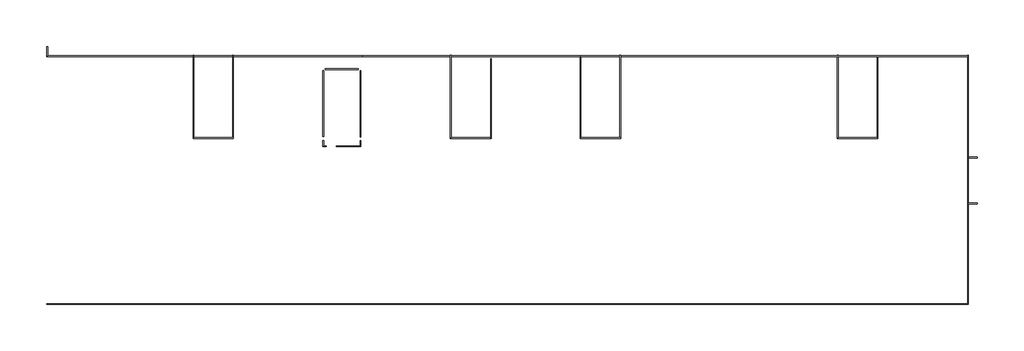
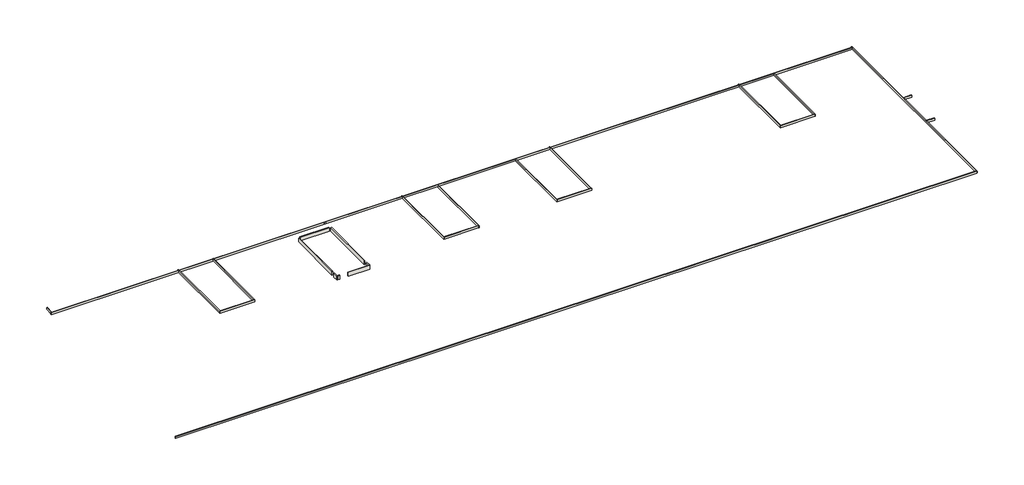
# One storey: 26 walls.
"""IFC4 building model written with IfcOpenShell, lengths in millimetres."""

from ifc_helpers import new_model, si_unit, frame, origin, place, context, project, spatial, polyline, outline, extrude, faceted_brep, element, save

model = new_model("IFC4")

# Units and contexts
model_context = context("Model", 3, world=origin())
ifc_project = project(units=[si_unit("LENGTHUNIT", "METRE", prefix="MILLI")], contexts=[model_context])

# Site, building, storey
site = spatial("IfcSite", under=ifc_project)
building = spatial("IfcBuilding", under=site)
storey = spatial("IfcBuildingStorey", under=building, Name="Cobertura-IMPERMEABILIZAÇÃO", Elevation=59740.0)

# Walls
placement = place(None, origin())
element("IfcWall", 1, ObjectType="Áreas frias", at=placement, inside=storey, context=model_context, shape_type="SweptSolid", body=[
    extrude(outline(polyline([(-33577.046705, 22672.9418231), (-33577.046705, 28530.439065), (-33512.046705, 28530.439065), (-33512.046705, 22672.9418231), (-33577.046705, 22672.9418231)])), frame((0.0, 0.0, 59740.0), z_axis=(0.0, 0.0, 1.0), x_axis=(1.0, 0.0, 0.0)), (0.0, 0.0, 1.0), 400.0),
])
element("IfcWall", 2, ObjectType="Áreas frias", at=placement, inside=storey, context=model_context, shape_type="Brep", body=[
    faceted_brep([(-33577.046705, 22319.9418231, 59740.0), (-33577.046705, 21791.8823991, 59740.0), (-33577.046705, 21791.8823991, 60140.0), (-33577.046705, 22319.9418231, 60140.0), (-33512.046705, 22319.9418231, 59740.0), (-33512.046705, 22319.9418231, 60140.0), (-33512.046705, 21856.8823991, 60140.0), (-33512.046705, 21791.8823991, 60140.0), (-33512.046705, 21791.8823991, 59740.0), (-33512.046705, 21856.8823991, 59740.0)], [[[0, 1, 2, 3]], [[4, 5, 6, 7, 8, 9]], [[1, 0, 4, 9, 8]], [[3, 2, 7, 6, 5]], [[0, 3, 5, 4]], [[2, 1, 8, 7]]]),
])
element("IfcWall", 3, ObjectType="Áreas frias", at=placement, inside=storey, context=model_context, shape_type="SweptSolid", body=[
    extrude(outline(polyline([(-33282.049875, 21791.8823991), (-33512.046705, 21791.8823991), (-33512.046705, 21856.8823991), (-33282.049875, 21856.8823991), (-33282.049875, 21791.8823991)])), frame((0.0, 0.0, 59740.0), z_axis=(0.0, 0.0, 1.0), x_axis=(1.0, 0.0, 0.0)), (0.0, 0.0, 1.0), 400.0),
])
element("IfcWall", 4, ObjectType="Áreas frias", at=placement, inside=storey, context=model_context, shape_type="Brep", body=[
    faceted_brep([(-32412.049875, 21791.8823991, 59740.0), (-30219.549875, 21791.8823991, 59740.0), (-30219.549875, 21791.8823991, 60140.0), (-32412.049875, 21791.8823991, 60140.0), (-32412.049875, 21856.8823991, 59740.0), (-32412.049875, 21856.8823991, 60140.0), (-30284.549875, 21856.8823991, 60140.0), (-30219.549875, 21856.8823991, 60140.0), (-30219.549875, 21856.8823991, 59740.0), (-30284.549875, 21856.8823991, 59740.0)], [[[0, 1, 2, 3]], [[4, 5, 6, 7, 8, 9]], [[1, 0, 4, 9, 8]], [[3, 2, 7, 6, 5]], [[0, 3, 5, 4]], [[2, 1, 8, 7]]]),
])
element("IfcWall", 5, ObjectType="Áreas frias", at=placement, inside=storey, context=model_context, shape_type="SweptSolid", body=[
    extrude(outline(polyline([(-30219.549875, 22324.3823991), (-30219.549875, 21856.8823991), (-30284.549875, 21856.8823991), (-30284.549875, 22324.3823991), (-30219.549875, 22324.3823991)])), frame((0.0, 0.0, 59740.0), z_axis=(0.0, 0.0, 1.0), x_axis=(1.0, 0.0, 0.0)), (0.0, 0.0, 1.0), 400.0),
])
element("IfcWall", 6, ObjectType="Áreas frias", at=placement, inside=storey, context=model_context, shape_type="SweptSolid", body=[
    extrude(outline(polyline([(-30232.0467035, 28522.9418231), (-30232.0467035, 22642.9418231), (-30297.0467035, 22642.9418231), (-30297.0467035, 28522.9418231), (-30232.0467035, 28522.9418231)])), frame((0.0, 0.0, 59740.0), z_axis=(0.0, 0.0, 1.0), x_axis=(1.0, 0.0, 0.0)), (0.0, 0.0, 1.0), 400.0),
])
element("IfcWall", 7, ObjectType="Áreas frias", at=placement, inside=storey, context=model_context, shape_type="SweptSolid", body=[
    extrude(outline(polyline([(-33378.5467035, 28671.8823991), (-30438.5467035, 28671.8823991), (-30438.5467035, 28606.8823991), (-33378.5467035, 28606.8823991), (-33378.5467035, 28671.8823991)])), frame((0.0, 0.0, 59740.0), z_axis=(0.0, 0.0, 1.0), x_axis=(1.0, 0.0, 0.0)), (0.0, 0.0, 1.0), 400.0),
])
element("IfcWall", 8, ObjectType="Áreas frias", at=placement, inside=storey, context=model_context, shape_type="Brep", body=[
    faceted_brep([(-45007.049875, 22509.382395, 59740.0), (-45007.049875, 22574.382395, 59740.0), (-45007.049875, 29896.0421107, 59740.0), (-45007.049875, 29896.0421107, 59940.0), (-45007.049875, 22574.382395, 59940.0), (-45007.049875, 22509.382395, 59940.0), (-45072.049875, 22509.382395, 59740.0), (-45072.049875, 22509.382395, 59940.0), (-45072.049875, 29896.0421107, 59940.0), (-45072.049875, 29896.0421107, 59740.0)], [[[0, 1, 2, 3, 4, 5]], [[6, 7, 8, 9]], [[2, 1, 0, 6, 9]], [[3, 2, 9, 8]], [[5, 4, 3, 8, 7]], [[0, 5, 7, 6]]]),
])
element("IfcWall", 9, ObjectType="Áreas frias", at=placement, inside=storey, context=model_context, shape_type="Brep", body=[
    faceted_brep([(-41499.549875, 22574.382395, 59740.0), (-41564.549875, 22574.382395, 59740.0), (-45007.049875, 22574.382395, 59740.0), (-45007.049875, 22574.382395, 59940.0), (-41564.549875, 22574.382395, 59940.0), (-41499.549875, 22574.382395, 59940.0), (-41499.549875, 22509.382395, 59740.0), (-41499.549875, 22509.382395, 59940.0), (-45007.049875, 22509.382395, 59940.0), (-45007.049875, 22509.382395, 59740.0)], [[[0, 1, 2, 3, 4, 5]], [[6, 7, 8, 9]], [[2, 1, 0, 6, 9]], [[5, 4, 3, 8, 7]], [[3, 2, 9, 8]], [[0, 5, 7, 6]]]),
])
element("IfcWall", 10, ObjectType="Áreas frias", at=placement, inside=storey, context=model_context, shape_type="SweptSolid", body=[
    extrude(outline(polyline([(-41564.549875, 22574.382395), (-41564.549875, 29871.2226879), (-41499.549875, 29871.2226879), (-41499.549875, 22574.382395), (-41564.549875, 22574.382395)])), frame((0.0, 0.0, 59740.0), z_axis=(0.0, 0.0, 1.0), x_axis=(1.0, 0.0, 0.0)), (0.0, 0.0, 1.0), 200.0),
])
element("IfcWall", 11, ObjectType="Áreas frias", at=placement, inside=storey, context=model_context, shape_type="Brep", body=[
    faceted_brep([(-22239.549875, 22509.382395, 59740.0), (-22239.549875, 22574.382395, 59740.0), (-22239.549875, 29901.0421108, 59740.0), (-22239.549875, 29901.0421108, 59940.0), (-22239.549875, 22574.382395, 59940.0), (-22239.549875, 22509.382395, 59940.0), (-22304.549875, 22509.382395, 59740.0), (-22304.549875, 22509.382395, 59940.0), (-22304.549875, 29901.0421108, 59940.0), (-22304.549875, 29901.0421108, 59740.0)], [[[0, 1, 2, 3, 4, 5]], [[6, 7, 8, 9]], [[2, 1, 0, 6, 9]], [[3, 2, 9, 8]], [[5, 4, 3, 8, 7]], [[0, 5, 7, 6]]]),
])
element("IfcWall", 12, ObjectType="Áreas frias", at=placement, inside=storey, context=model_context, shape_type="SweptSolid", body=[
    extrude(outline(polyline([(-22239.549875, 22574.382395), (-18769.549875, 22574.382395), (-18769.549875, 22509.382395), (-22239.549875, 22509.382395), (-22239.549875, 22574.382395)])), frame((0.0, 0.0, 59740.0), z_axis=(0.0, 0.0, 1.0), x_axis=(1.0, 0.0, 0.0)), (0.0, 0.0, 1.0), 200.0),
])
element("IfcWall", 13, ObjectType="Áreas frias", at=placement, inside=storey, context=model_context, shape_type="SweptSolid", body=[
    extrude(outline(polyline([(-18687.049875, 29591.882395), (-18687.049875, 22491.882395), (-18752.049875, 22491.882395), (-18752.049875, 29591.882395), (-18687.049875, 29591.882395)])), frame((0.0, 0.0, 59740.0), z_axis=(0.0, 0.0, 1.0), x_axis=(1.0, 0.0, 0.0)), (0.0, 0.0, 1.0), 200.0),
])
element("IfcWall", 14, ObjectType="Áreas frias", at=placement, inside=storey, context=model_context, shape_type="Brep", body=[
    faceted_brep([(-10814.549875, 29769.3823991, 59740.0), (-10814.549875, 22509.382395, 59740.0), (-10814.549875, 22509.382395, 59940.0), (-10814.549875, 29769.3823991, 59940.0), (-10749.549875, 29769.3823991, 59740.0), (-10749.549875, 29769.3823991, 59940.0), (-10749.549875, 22574.382395, 59940.0), (-10749.549875, 22509.382395, 59940.0), (-10749.549875, 22509.382395, 59740.0), (-10749.549875, 22574.382395, 59740.0)], [[[0, 1, 2, 3]], [[4, 5, 6, 7, 8, 9]], [[1, 0, 4, 9, 8]], [[3, 2, 7, 6, 5]], [[2, 1, 8, 7]], [[0, 3, 5, 4]]]),
])
element("IfcWall", 15, ObjectType="Áreas frias", at=placement, inside=storey, context=model_context, shape_type="Brep", body=[
    faceted_brep([(-10749.549875, 22509.382395, 59740.0), (-7247.049875, 22509.382395, 59740.0), (-7247.049875, 22509.382395, 59940.0), (-10749.549875, 22509.382395, 59940.0), (-10749.549875, 22574.382395, 59740.0), (-10749.549875, 22574.382395, 59940.0), (-7312.049875, 22574.382395, 59940.0), (-7247.049875, 22574.382395, 59940.0), (-7247.049875, 22574.382395, 59740.0), (-7312.049875, 22574.382395, 59740.0)], [[[0, 1, 2, 3]], [[4, 5, 6, 7, 8, 9]], [[1, 0, 4, 9, 8]], [[3, 2, 7, 6, 5]], [[0, 3, 5, 4]], [[2, 1, 8, 7]]]),
])
element("IfcWall", 16, ObjectType="Áreas frias", at=placement, inside=storey, context=model_context, shape_type="SweptSolid", body=[
    extrude(outline(polyline([(-7247.049875, 29901.0421108), (-7247.049875, 22574.382395), (-7312.049875, 22574.382395), (-7312.049875, 29901.0421108), (-7247.049875, 29901.0421108)])), frame((0.0, 0.0, 59740.0), z_axis=(0.0, 0.0, 1.0), x_axis=(1.0, 0.0, 0.0)), (0.0, 0.0, 1.0), 200.0),
])
element("IfcWall", 17, ObjectType="Áreas frias", at=placement, inside=storey, context=model_context, shape_type="Brep", body=[
    faceted_brep([(11947.950125, 29895.7226879, 59740.0), (11947.950125, 22509.382395, 59740.0), (11947.950125, 22509.382395, 59940.0), (11947.950125, 29895.7226879, 59940.0), (12012.950125, 29895.7226879, 59740.0), (12012.950125, 29895.7226879, 59940.0), (12012.950125, 22574.382395, 59940.0), (12012.950125, 22509.382395, 59940.0), (12012.950125, 22509.382395, 59740.0), (12012.950125, 22574.382395, 59740.0)], [[[0, 1, 2, 3]], [[4, 5, 6, 7, 8, 9]], [[1, 0, 4, 9, 8]], [[3, 2, 7, 6, 5]], [[0, 3, 5, 4]], [[2, 1, 8, 7]]]),
])
element("IfcWall", 18, ObjectType="Áreas frias", at=placement, inside=storey, context=model_context, shape_type="Brep", body=[
    faceted_brep([(15520.450125, 22509.382395, 59740.0), (15520.450125, 29769.3823991, 59740.0), (15520.450125, 29769.3823991, 59940.0), (15520.450125, 22509.382395, 59940.0), (15455.450125, 22509.382395, 59740.0), (15455.450125, 22509.382395, 59940.0), (15455.450125, 22574.382395, 59940.0), (15455.450125, 29769.3823991, 59940.0), (15455.450125, 29769.3823991, 59740.0), (15455.450125, 22574.382395, 59740.0)], [[[0, 1, 2, 3]], [[4, 5, 6, 7, 8, 9]], [[1, 0, 4, 9, 8]], [[3, 2, 7, 6, 5]], [[0, 3, 5, 4]], [[2, 1, 8, 7]]]),
])
element("IfcWall", 19, ObjectType="Áreas frias", at=placement, inside=storey, context=model_context, shape_type="SweptSolid", body=[
    extrude(outline(polyline([(15455.450125, 22509.382395), (12012.950125, 22509.382395), (12012.950125, 22574.382395), (15455.450125, 22574.382395), (15455.450125, 22509.382395)])), frame((0.0, 0.0, 59740.0), z_axis=(0.0, 0.0, 1.0), x_axis=(1.0, 0.0, 0.0)), (0.0, 0.0, 1.0), 200.0),
])
element("IfcWall", 20, ObjectType="Áreas frias", at=placement, inside=storey, context=model_context, shape_type="Brep", body=[
    faceted_brep([(-30120.5467035, 29829.0629763, 59740.0), (-57929.549875, 29829.0629763, 59740.0), (-57994.549875, 29829.0629763, 59740.0), (-58034.549875, 29829.0629763, 59740.0), (-58034.549875, 29829.0629763, 59940.0), (-57994.549875, 29829.0629763, 59940.0), (-57929.549875, 29829.0629763, 59940.0), (-30120.5467035, 29829.0629763, 59940.0), (-30120.5467035, 29764.0629763, 59740.0), (-30120.5467035, 29764.0629763, 59940.0), (-58034.549875, 29764.0629763, 59940.0), (-58034.549875, 29764.0629763, 59740.0)], [[[0, 1, 2, 3, 4, 5, 6, 7]], [[8, 9, 10, 11]], [[3, 2, 1, 0, 8, 11]], [[4, 3, 11, 10]], [[7, 6, 5, 4, 10, 9]], [[0, 7, 9, 8]]]),
])
element("IfcWall", 21, ObjectType="Áreas frias", at=placement, inside=storey, context=model_context, shape_type="SweptSolid", body=[
    extrude(outline(polyline([(-57929.549875, 30656.8823997), (-57929.549875, 29829.0629763), (-57994.549875, 29829.0629763), (-57994.549875, 30656.8823997), (-57929.549875, 30656.8823997)])), frame((0.0, 0.0, 59740.0), z_axis=(0.0, 0.0, 1.0), x_axis=(1.0, 0.0, 0.0)), (0.0, 0.0, 1.0), 200.0),
])
element("IfcWall", 22, ObjectType="Áreas frias", at=placement, inside=storey, context=model_context, shape_type="Brep", body=[
    faceted_brep([(23452.950125, 29834.3823991, 59740.0), (-30279.549875, 29834.3823991, 59740.0), (-30279.549875, 29834.3823991, 59940.0), (23452.950125, 29834.3823991, 59940.0), (23452.950125, 29769.3823991, 59740.0), (23452.950125, 29769.3823991, 59940.0), (15520.450125, 29769.3823991, 59940.0), (15455.450125, 29769.3823991, 59940.0), (-10749.549875, 29769.3823991, 59940.0), (-10814.549875, 29769.3823991, 59940.0), (-30279.549875, 29769.3823991, 59940.0), (-30279.549875, 29769.3823991, 59740.0), (-10814.549875, 29769.3823991, 59740.0), (-10749.549875, 29769.3823991, 59740.0), (15455.450125, 29769.3823991, 59740.0), (15520.450125, 29769.3823991, 59740.0)], [[[0, 1, 2, 3]], [[4, 5, 6, 7, 8, 9, 10, 11, 12, 13, 14, 15]], [[1, 0, 4, 15, 14, 13, 12, 11]], [[2, 1, 11, 10]], [[3, 2, 10, 9, 8, 7, 6, 5]], [[0, 3, 5, 4]]]),
])
element("IfcWall", 23, ObjectType="Áreas frias", at=placement, inside=storey, context=model_context, shape_type="Brep", body=[
    faceted_brep([(23517.950125, 7806.7823992, 59740.0), (23517.950125, 16721.8823991, 59740.0), (23517.950125, 16786.8823991, 59740.0), (23517.950125, 20785.0823991, 59740.0), (23517.950125, 20850.0823991, 59740.0), (23517.950125, 29903.5421108, 59740.0), (23517.950125, 29903.5421108, 59940.0), (23517.950125, 20850.0823991, 59940.0), (23517.950125, 20785.0823991, 59940.0), (23517.950125, 16786.8823991, 59940.0), (23517.950125, 16721.8823991, 59940.0), (23517.950125, 7806.7823992, 59940.0), (23452.950125, 7806.7823992, 59740.0), (23452.950125, 7806.7823992, 59940.0), (23452.950125, 7871.7823992, 59940.0), (23452.950125, 29769.3823991, 59940.0), (23452.950125, 29834.3823991, 59940.0), (23452.950125, 29903.5421108, 59940.0), (23452.950125, 29903.5421108, 59740.0), (23452.950125, 29834.3823991, 59740.0), (23452.950125, 29769.3823991, 59740.0), (23452.950125, 7871.7823992, 59740.0)], [[[0, 1, 2, 3, 4, 5, 6, 7, 8, 9, 10, 11]], [[12, 13, 14, 15, 16, 17, 18, 19, 20, 21]], [[5, 4, 3, 2, 1, 0, 12, 21, 20, 19, 18]], [[6, 5, 18, 17]], [[11, 10, 9, 8, 7, 6, 17, 16, 15, 14, 13]], [[0, 11, 13, 12]]]),
])
element("IfcWall", 24, ObjectType="Áreas frias", at=placement, inside=storey, context=model_context, shape_type="SweptSolid", body=[
    extrude(outline(polyline([(24332.0605113, 16721.8823991), (23517.950125, 16721.8823991), (23517.950125, 16786.8823991), (24332.0605113, 16786.8823991), (24332.0605113, 16721.8823991)])), frame((0.0, 0.0, 59740.0), z_axis=(0.0, 0.0, 1.0), x_axis=(1.0, 0.0, 0.0)), (0.0, 0.0, 1.0), 200.0),
])
element("IfcWall", 25, ObjectType="Áreas frias", at=placement, inside=storey, context=model_context, shape_type="SweptSolid", body=[
    extrude(outline(polyline([(24332.0605113, 20785.0823991), (23517.950125, 20785.0823991), (23517.950125, 20850.0823991), (24332.0605113, 20850.0823991), (24332.0605113, 20785.0823991)])), frame((0.0, 0.0, 59740.0), z_axis=(0.0, 0.0, 1.0), x_axis=(1.0, 0.0, 0.0)), (0.0, 0.0, 1.0), 200.0),
])
element("IfcWall", 26, ObjectType="Áreas frias", at=placement, inside=storey, context=model_context, shape_type="SweptSolid", body=[
    extrude(outline(polyline([(23452.950125, 7806.7823992), (-58034.549875, 7806.7823992), (-58034.549875, 7871.7823992), (23452.950125, 7871.7823992), (23452.950125, 7806.7823992)])), frame((0.0, 0.0, 59740.0), z_axis=(0.0, 0.0, 1.0), x_axis=(1.0, 0.0, 0.0)), (0.0, 0.0, 1.0), 200.0),
])

save(model, "model.ifc")
